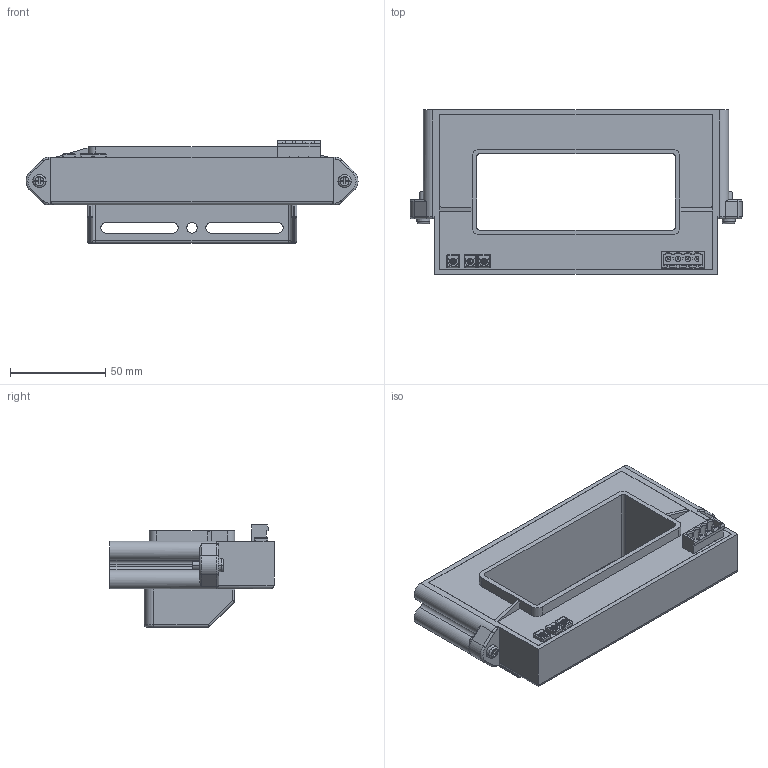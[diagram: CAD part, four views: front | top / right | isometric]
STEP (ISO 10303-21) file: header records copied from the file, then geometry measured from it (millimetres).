
FILE_DESCRIPTION(('Creo Elements/Direct Modeling STEP Export'),'2;1');
FILE_NAME('AHR B5 & B10 & B420 Black box.stp','2013-07-18T 9:38:35',(''),(''),'Creo Elements/Direct Modeling STEP processor for AP214 (Solid Model)','Creo Elements/Direct Modeling 17.0C 05-Feb-2011 (C) Parametric Technology GmbH','');
FILE_SCHEMA(('AUTOMOTIVE_DESIGN { 1 0 10303 214 1 1 1 1 }'));
Length unit declared in the file: millimetre
Products named in the file (1): AHR
Bounding box: 174 x 86 x 53.6 mm (x, y, z)
Volume: 241865 mm3; surface area: 54310.5 mm2
Topology: 1 solids, 11 shells, 790 faces, 2026 edges, 1325 vertices
Faces by surface type: plane 377, cylinder 264, bspline 96, torus 28, cone 16, sphere 9
Entity records: 29469 total; most frequent: CARTESIAN_POINT 7241, ORIENTED_EDGE 4042, DIRECTION 3554, EDGE_CURVE 2021, VERTEX_POINT 1325, AXIS2_PLACEMENT_3D 1185, VECTOR 1184, LINE 1184
